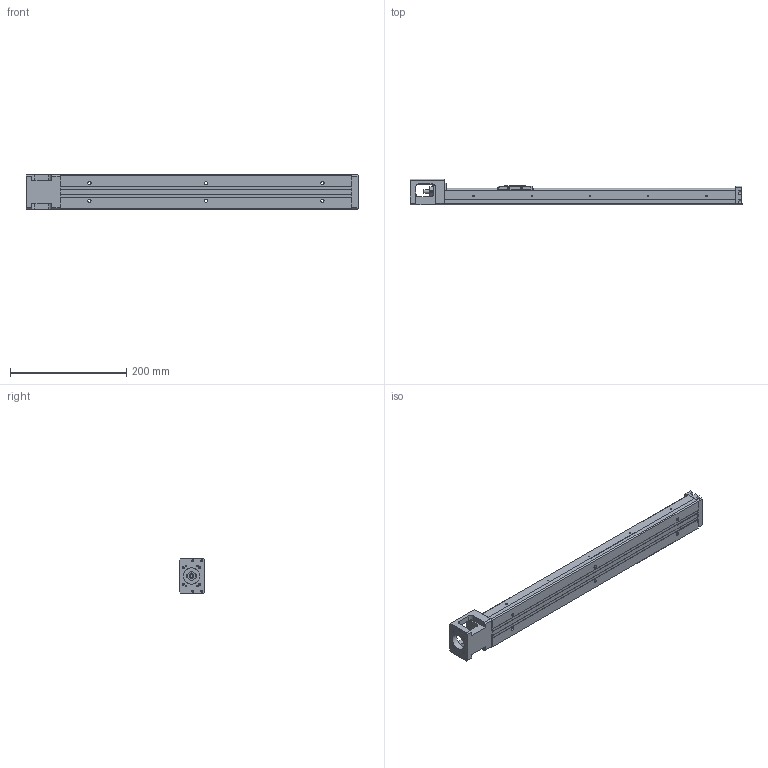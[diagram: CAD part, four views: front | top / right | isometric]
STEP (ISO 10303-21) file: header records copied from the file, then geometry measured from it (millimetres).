
FILE_DESCRIPTION(/* description */ (''),/* implementation_level */ '2;1');
FILE_NAME(/* name */ '33S-500low.stp',/* time_stamp */ '2018-02-12T11:23:05+08:00',/* author */ (''),/* organization */ (''),/* preprocessor_version */ 'ST-DEVELOPER v11',/* originating_system */ 'SIEMENS UGS NX 6.0',/* authorisation */ '');
FILE_SCHEMA (('AUTOMOTIVE_DESIGN { 1 0 10303 214 1 1 1 1 }'));
Length unit declared in the file: millimetre
Products named in the file (1): 3.069
Bounding box: 570 x 44.45 x 60 mm (x, y, z)
Volume: 592344.5 mm3; surface area: 166548.2 mm2
Topology: 5 solids, 14 shells, 615 faces, 1561 edges, 1026 vertices
Faces by surface type: plane 362, cylinder 172, bspline 31, extrusion 21, cone 20, torus 7, revolution 2
Full cylindrical faces by diameter (mm): 1.6 x3, 1.65 x4, 2.15 x5, 2.42 x4, 2.45 x2, 2.5 x12, 3.2 x4, 3.3 x4, 3.4 x4, 3.5 x10, 3.969 x1, 4 x4, 4.001 x1, 4.135 x2, 5.5 x6, 6 x5, 7.6 x1, 8 x5, 9.5 x6, 10.72 x3, 11.8 x2, 12 x6, 12.8 x1, 13 x2, 14 x1, 16 x4, 21.5 x1, 28 x1
Entity records: 34296 total; most frequent: CARTESIAN_POINT 16047, DIRECTION 2778, ORIENTED_EDGE 2728, EDGE_CURVE 1364, AXIS2_PLACEMENT_3D 973, VERTEX_POINT 962, EDGE_LOOP 858, VECTOR 830
